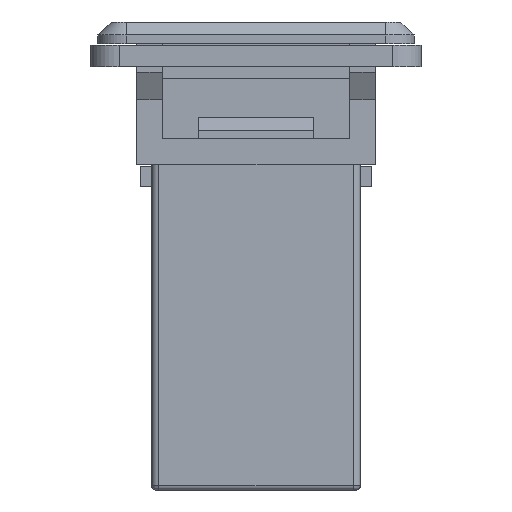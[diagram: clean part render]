
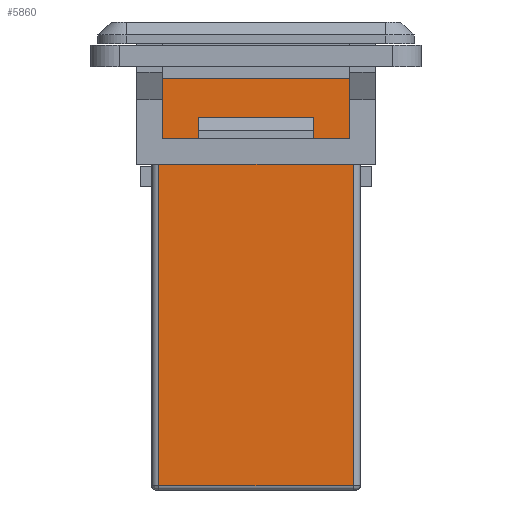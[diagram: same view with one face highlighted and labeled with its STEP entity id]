
A CAD part, left-side view. The second image highlights one B-rep face of the part: STEP entity #5860.
In plain terms, the highlighted planar face has unit normal (-1, 0, 0) as drawn and (0, -1, 0) by its records, which use the part's own axes.
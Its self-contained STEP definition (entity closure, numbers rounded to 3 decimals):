
#4861 = VERTEX_POINT('',#4862);
#4862 = CARTESIAN_POINT('',(6.75,-8.05,32.2));
#4869 = EDGE_CURVE('',#4870,#4861,#4872,.T.);
#4870 = VERTEX_POINT('',#4871);
#4871 = CARTESIAN_POINT('',(6.75,-8.05,0.3));
#4872 = LINE('',#4873,#4874);
#4873 = CARTESIAN_POINT('',(6.75,-8.05,0.));
#4874 = VECTOR('',#4875,1.);
#4875 = DIRECTION('',(0.,0.,1.));
#4997 = EDGE_CURVE('',#4998,#4870,#5000,.T.);
#4998 = VERTEX_POINT('',#4999);
#4999 = CARTESIAN_POINT('',(-6.75,-8.05,0.3));
#5000 = LINE('',#5001,#5002);
#5001 = CARTESIAN_POINT('',(-6.75,-8.05,0.3));
#5002 = VECTOR('',#5003,1.);
#5003 = DIRECTION('',(1.,0.,0.));
#5371 = VERTEX_POINT('',#5372);
#5372 = CARTESIAN_POINT('',(-6.75,-8.05,32.2));
#5379 = EDGE_CURVE('',#5371,#4861,#5380,.T.);
#5380 = LINE('',#5381,#5382);
#5381 = CARTESIAN_POINT('',(-6.75,-8.05,32.2));
#5382 = VECTOR('',#5383,1.);
#5383 = DIRECTION('',(1.,0.,0.));
#5753 = EDGE_CURVE('',#4998,#5371,#5754,.T.);
#5754 = LINE('',#5755,#5756);
#5755 = CARTESIAN_POINT('',(-6.75,-8.05,0.));
#5756 = VECTOR('',#5757,1.);
#5757 = DIRECTION('',(0.,0.,1.));
#5860 = ADVANCED_FACE('',(#5861,#5867),#5901,.F.);
#5861 = FACE_BOUND('',#5862,.F.);
#5862 = EDGE_LOOP('',(#5863,#5864,#5865,#5866));
#5863 = ORIENTED_EDGE('',*,*,#5753,.T.);
#5864 = ORIENTED_EDGE('',*,*,#5379,.T.);
#5865 = ORIENTED_EDGE('',*,*,#4869,.F.);
#5866 = ORIENTED_EDGE('',*,*,#4997,.F.);
#5867 = FACE_BOUND('',#5868,.F.);
#5868 = EDGE_LOOP('',(#5869,#5879,#5887,#5895));
#5869 = ORIENTED_EDGE('',*,*,#5870,.F.);
#5870 = EDGE_CURVE('',#5871,#5873,#5875,.T.);
#5871 = VERTEX_POINT('',#5872);
#5872 = CARTESIAN_POINT('',(-4.,-8.05,24.4));
#5873 = VERTEX_POINT('',#5874);
#5874 = CARTESIAN_POINT('',(-4.,-8.05,25.9));
#5875 = LINE('',#5876,#5877);
#5876 = CARTESIAN_POINT('',(-4.,-8.05,24.4));
#5877 = VECTOR('',#5878,1.);
#5878 = DIRECTION('',(0.,0.,1.));
#5879 = ORIENTED_EDGE('',*,*,#5880,.T.);
#5880 = EDGE_CURVE('',#5871,#5881,#5883,.T.);
#5881 = VERTEX_POINT('',#5882);
#5882 = CARTESIAN_POINT('',(4.,-8.05,24.4));
#5883 = LINE('',#5884,#5885);
#5884 = CARTESIAN_POINT('',(-4.,-8.05,24.4));
#5885 = VECTOR('',#5886,1.);
#5886 = DIRECTION('',(1.,0.,0.));
#5887 = ORIENTED_EDGE('',*,*,#5888,.T.);
#5888 = EDGE_CURVE('',#5881,#5889,#5891,.T.);
#5889 = VERTEX_POINT('',#5890);
#5890 = CARTESIAN_POINT('',(4.,-8.05,25.9));
#5891 = LINE('',#5892,#5893);
#5892 = CARTESIAN_POINT('',(4.,-8.05,24.4));
#5893 = VECTOR('',#5894,1.);
#5894 = DIRECTION('',(0.,0.,1.));
#5895 = ORIENTED_EDGE('',*,*,#5896,.F.);
#5896 = EDGE_CURVE('',#5873,#5889,#5897,.T.);
#5897 = LINE('',#5898,#5899);
#5898 = CARTESIAN_POINT('',(-4.,-8.05,25.9));
#5899 = VECTOR('',#5900,1.);
#5900 = DIRECTION('',(1.,0.,0.));
#5901 = PLANE('',#5902);
#5902 = AXIS2_PLACEMENT_3D('',#5903,#5904,#5905);
#5903 = CARTESIAN_POINT('',(-7.25,-8.05,0.));
#5904 = DIRECTION('',(0.,1.,0.));
#5905 = DIRECTION('',(1.,0.,0.));
